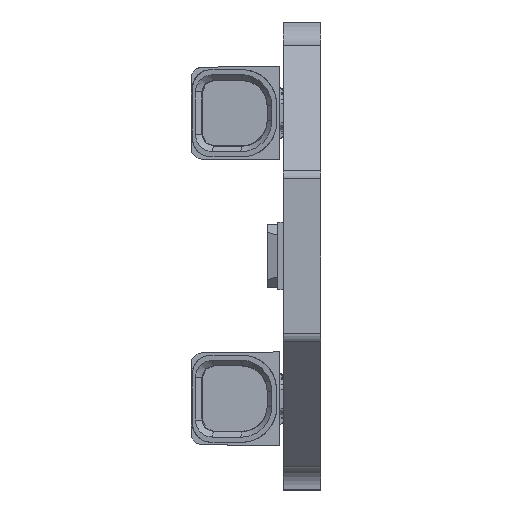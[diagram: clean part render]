
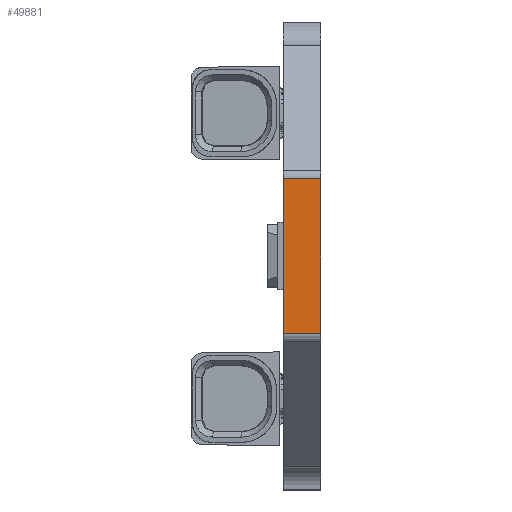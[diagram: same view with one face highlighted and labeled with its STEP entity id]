
A CAD part, left-side view. The second image highlights one B-rep face of the part: STEP entity #49881.
In plain terms, the highlighted planar face has unit normal (-1, 0, 0).
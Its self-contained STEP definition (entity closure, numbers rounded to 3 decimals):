
#5776 = VERTEX_POINT ( 'NONE', #13851 ) ;
#7038 = VECTOR ( 'NONE', #58315, 1000. ) ;
#7695 = ORIENTED_EDGE ( 'NONE', *, *, #73619, .T. ) ;
#8411 = VERTEX_POINT ( 'NONE', #37220 ) ;
#13406 = CARTESIAN_POINT ( 'NONE',  ( 0., 13.293, 1.6 ) ) ;
#13407 = DIRECTION ( 'NONE',  ( 0., -1., 0. ) ) ;
#13851 = CARTESIAN_POINT ( 'NONE',  ( 0., 6.707, 1.6 ) ) ;
#16266 = EDGE_CURVE ( 'NONE', #8411, #5776, #67389, .T. ) ;
#18125 = VECTOR ( 'NONE', #18829, 1000. ) ;
#18829 = DIRECTION ( 'NONE',  ( 0., -1., 0. ) ) ;
#19607 = PLANE ( 'NONE',  #61809 ) ;
#19878 = DIRECTION ( 'NONE',  ( 0., 0., -1. ) ) ;
#20104 = VECTOR ( 'NONE', #13407, 1000. ) ;
#20115 = FACE_OUTER_BOUND ( 'NONE', #34733, .T. ) ;
#23407 = VERTEX_POINT ( 'NONE', #77960 ) ;
#26224 = LINE ( 'NONE', #51862, #7038 ) ;
#28100 = ORIENTED_EDGE ( 'NONE', *, *, #16266, .F. ) ;
#29549 = DIRECTION ( 'NONE',  ( 0., 0., -1. ) ) ;
#30443 = ORIENTED_EDGE ( 'NONE', *, *, #80224, .F. ) ;
#30705 = EDGE_CURVE ( 'NONE', #8411, #23407, #26224, .T. ) ;
#32231 = LINE ( 'NONE', #68009, #66360 ) ;
#34733 = EDGE_LOOP ( 'NONE', ( #7695, #30443, #28100, #43716 ) ) ;
#37220 = CARTESIAN_POINT ( 'NONE',  ( 0., 13.293, 1.6 ) ) ;
#43716 = ORIENTED_EDGE ( 'NONE', *, *, #30705, .T. ) ;
#43791 = CARTESIAN_POINT ( 'NONE',  ( 0., 6.707, 0. ) ) ;
#44443 = VERTEX_POINT ( 'NONE', #43791 ) ;
#49881 = ADVANCED_FACE ( 'NONE', ( #20115 ), #19607, .F. ) ;
#51862 = CARTESIAN_POINT ( 'NONE',  ( 0., 13.293, 1.6 ) ) ;
#58315 = DIRECTION ( 'NONE',  ( 0., 0., -1. ) ) ;
#58359 = DIRECTION ( 'NONE',  ( 1., 0., 0. ) ) ;
#61809 = AXIS2_PLACEMENT_3D ( 'NONE', #13406, #58359, #19878 ) ;
#64023 = CARTESIAN_POINT ( 'NONE',  ( 0., 13.293, 1.6 ) ) ;
#66360 = VECTOR ( 'NONE', #29549, 1000. ) ;
#67389 = LINE ( 'NONE', #64023, #18125 ) ;
#68009 = CARTESIAN_POINT ( 'NONE',  ( 0., 6.707, 1.6 ) ) ;
#73393 = LINE ( 'NONE', #77523, #20104 ) ;
#73619 = EDGE_CURVE ( 'NONE', #23407, #44443, #73393, .T. ) ;
#77523 = CARTESIAN_POINT ( 'NONE',  ( 0., 13.293, 0. ) ) ;
#77960 = CARTESIAN_POINT ( 'NONE',  ( 0., 13.293, 0. ) ) ;
#80224 = EDGE_CURVE ( 'NONE', #5776, #44443, #32231, .T. ) ;
